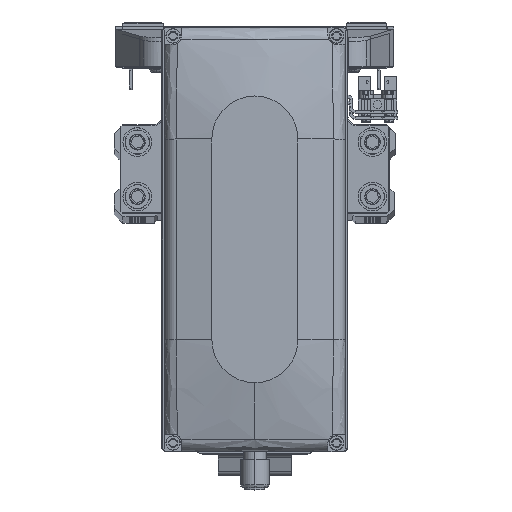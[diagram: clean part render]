
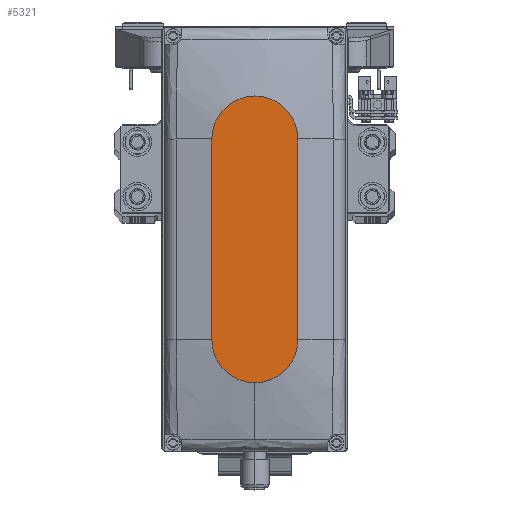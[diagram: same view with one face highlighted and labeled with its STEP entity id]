
A CAD part, top view. The second image highlights one B-rep face of the part: STEP entity #5321.
In plain terms, the highlighted planar face has unit normal (0, 0, 1).
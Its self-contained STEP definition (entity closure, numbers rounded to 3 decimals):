
#294 = CARTESIAN_POINT ( 'NONE',  ( 35., 0., 35. ) ) ;
#1103 = ORIENTED_EDGE ( 'NONE', *, *, #41113, .T. ) ;
#2627 = FACE_OUTER_BOUND ( 'NONE', #10390, .T. ) ;
#4751 = DIRECTION ( 'NONE',  ( 0., 0., 1. ) ) ;
#5321 = ADVANCED_FACE ( 'NONE', ( #2627 ), #18049, .T. ) ;
#5658 = CARTESIAN_POINT ( 'NONE',  ( -35., -15., 35. ) ) ;
#6711 = LINE ( 'NONE', #22170, #32293 ) ;
#8735 = VERTEX_POINT ( 'NONE', #45990 ) ;
#9666 = CIRCLE ( 'NONE', #38065, 15. ) ;
#9848 = CARTESIAN_POINT ( 'NONE',  ( -35., -15., 35. ) ) ;
#9923 = CARTESIAN_POINT ( 'NONE',  ( 35., 0., 35. ) ) ;
#10390 = EDGE_LOOP ( 'NONE', ( #32665, #29297, #23128, #26364, #1103 ) ) ;
#13048 = CIRCLE ( 'NONE', #41451, 15. ) ;
#13588 = CARTESIAN_POINT ( 'NONE',  ( 35., -15., 35. ) ) ;
#14234 = DIRECTION ( 'NONE',  ( 1., 0., 0. ) ) ;
#14619 = AXIS2_PLACEMENT_3D ( 'NONE', #33611, #48978, #14234 ) ;
#15702 = DIRECTION ( 'NONE',  ( 0., 0., 1. ) ) ;
#18049 = PLANE ( 'NONE',  #14619 ) ;
#20199 = DIRECTION ( 'NONE',  ( 1., 0., 0. ) ) ;
#21111 = DIRECTION ( 'NONE',  ( 1., 0., 0. ) ) ;
#22170 = CARTESIAN_POINT ( 'NONE',  ( -35., 15., 35. ) ) ;
#23128 = ORIENTED_EDGE ( 'NONE', *, *, #30442, .T. ) ;
#25409 = DIRECTION ( 'NONE',  ( 0., 0., 1. ) ) ;
#26364 = ORIENTED_EDGE ( 'NONE', *, *, #29219, .T. ) ;
#28148 = EDGE_CURVE ( 'NONE', #29173, #33468, #6711, .T. ) ;
#29008 = CARTESIAN_POINT ( 'NONE',  ( 35., 15., 35. ) ) ;
#29173 = VERTEX_POINT ( 'NONE', #29008 ) ;
#29219 = EDGE_CURVE ( 'NONE', #37708, #8735, #32008, .T. ) ;
#29297 = ORIENTED_EDGE ( 'NONE', *, *, #33109, .T. ) ;
#30442 = EDGE_CURVE ( 'NONE', #41360, #37708, #40407, .T. ) ;
#31261 = DIRECTION ( 'NONE',  ( 1., 0., 0. ) ) ;
#32008 = CIRCLE ( 'NONE', #38466, 15. ) ;
#32117 = VECTOR ( 'NONE', #21111, 1000. ) ;
#32293 = VECTOR ( 'NONE', #37672, 1000. ) ;
#32665 = ORIENTED_EDGE ( 'NONE', *, *, #28148, .T. ) ;
#33109 = EDGE_CURVE ( 'NONE', #33468, #41360, #13048, .T. ) ;
#33468 = VERTEX_POINT ( 'NONE', #38708 ) ;
#33611 = CARTESIAN_POINT ( 'NONE',  ( 0., 0., 35. ) ) ;
#37672 = DIRECTION ( 'NONE',  ( -1., 0., 0. ) ) ;
#37708 = VERTEX_POINT ( 'NONE', #13588 ) ;
#38065 = AXIS2_PLACEMENT_3D ( 'NONE', #294, #15702, #31261 ) ;
#38466 = AXIS2_PLACEMENT_3D ( 'NONE', #9923, #25409, #40895 ) ;
#38708 = CARTESIAN_POINT ( 'NONE',  ( -35., 15., 35. ) ) ;
#39503 = CARTESIAN_POINT ( 'NONE',  ( -35., 0., 35. ) ) ;
#40407 = LINE ( 'NONE', #5658, #32117 ) ;
#40895 = DIRECTION ( 'NONE',  ( 1., 0., 0. ) ) ;
#41113 = EDGE_CURVE ( 'NONE', #8735, #29173, #9666, .T. ) ;
#41360 = VERTEX_POINT ( 'NONE', #9848 ) ;
#41451 = AXIS2_PLACEMENT_3D ( 'NONE', #39503, #4751, #20199 ) ;
#45990 = CARTESIAN_POINT ( 'NONE',  ( 50., 0., 35. ) ) ;
#48978 = DIRECTION ( 'NONE',  ( 0., 0., 1. ) ) ;
